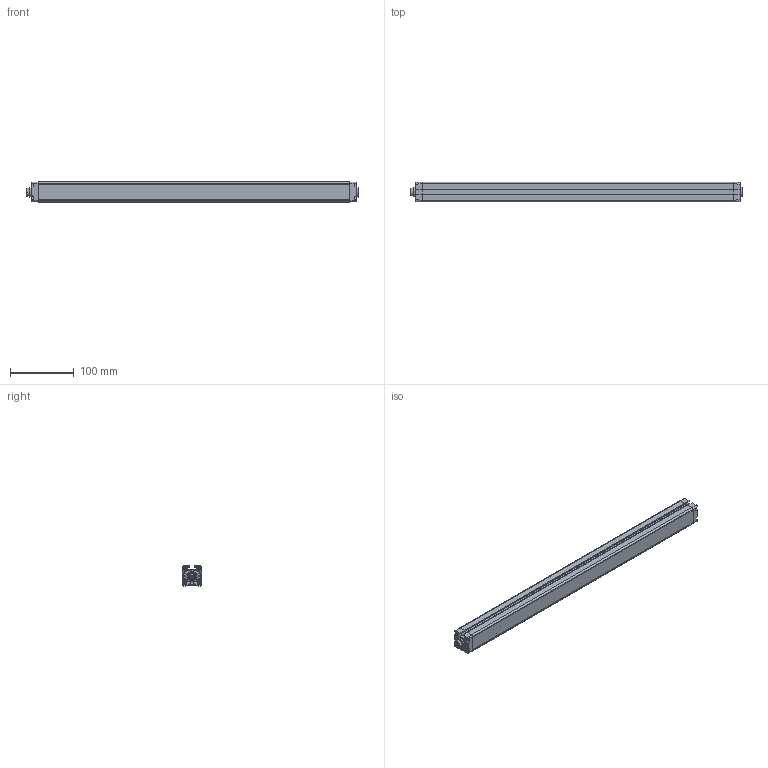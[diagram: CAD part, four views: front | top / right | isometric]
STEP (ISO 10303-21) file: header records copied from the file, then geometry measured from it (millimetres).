
FILE_DESCRIPTION(/* description */ (''),/* implementation_level */ '2;1');
FILE_NAME(/* name */ 'THS5-96.stp',/* time_stamp */ '2024-09-18T10:29:42+08:00',/* author */ (''),/* organization */ (''),/* preprocessor_version */ 'ST-DEVELOPER v16',/* originating_system */ 'SIEMENS PLM Software NX 11.0',/* authorisation */ '');
FILE_SCHEMA (('AP203_CONFIGURATION_CONTROLLED_3D_DESIGN_OF_MECHANICAL_PARTS_AND_ASSEMBLIES_MIM_LF { 1 0 10303 403 2 1 2}'));
Length unit declared in the file: millimetre
Products named in the file (9): 16960; 14961; 12962; 13963; 102964; 101965; 11966; ASM0002_ASM967; THS5-64_stp
Assembly tree (8 placements, depth 3):
  THS5-64_stp
    11966
    101965
    102964
    13963
    12962
    ASM0002_ASM967
      14961
      16960
Bounding box: 519.5 x 30.3 x 31.3 mm (x, y, z)
Volume: 169364.1 mm3; surface area: 194927 mm2
Topology: 5 solids, 7 shells, 540 faces, 1505 edges, 993 vertices
Faces by surface type: plane 382, cylinder 144, cone 14
Entity records: 18340 total; most frequent: CARTESIAN_POINT 3095, ORIENTED_EDGE 3006, DIRECTION 2911, EDGE_CURVE 1505, LINE 1173, VECTOR 1173, VERTEX_POINT 993, AXIS2_PLACEMENT_3D 869
